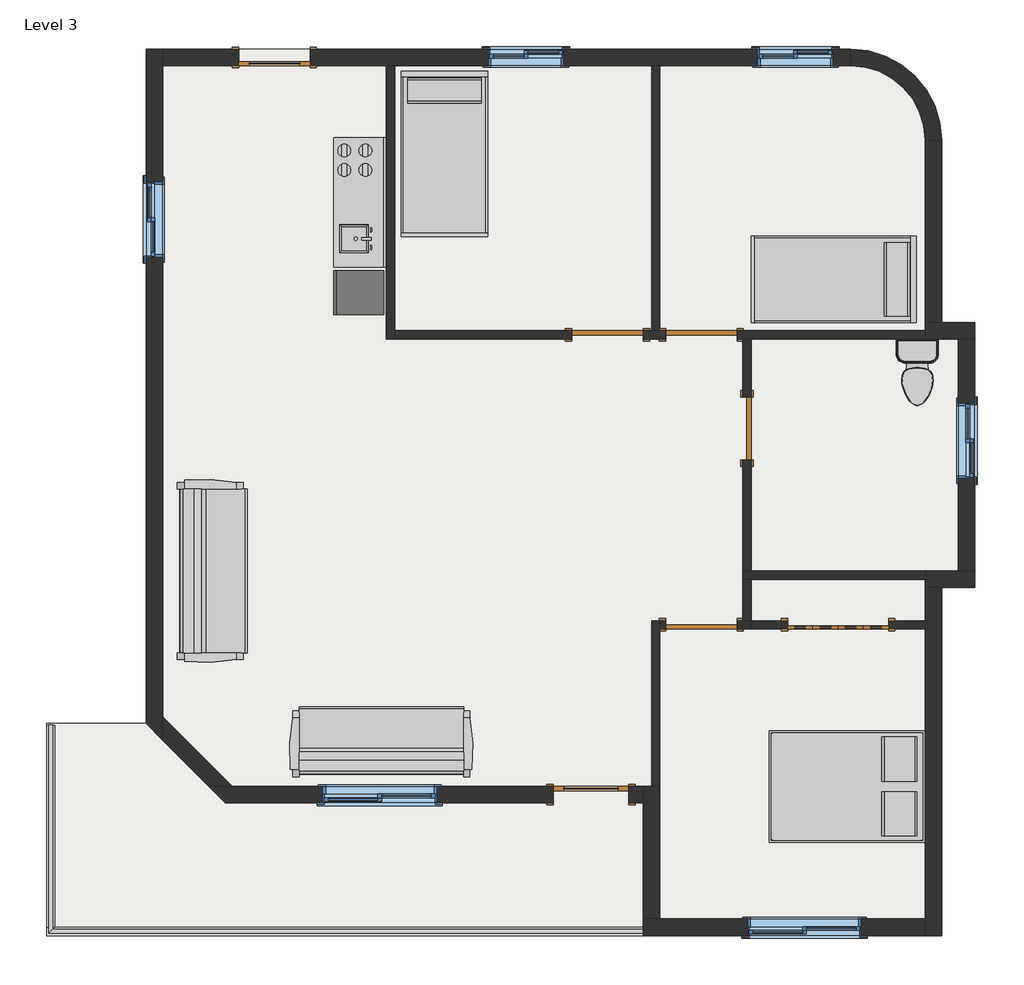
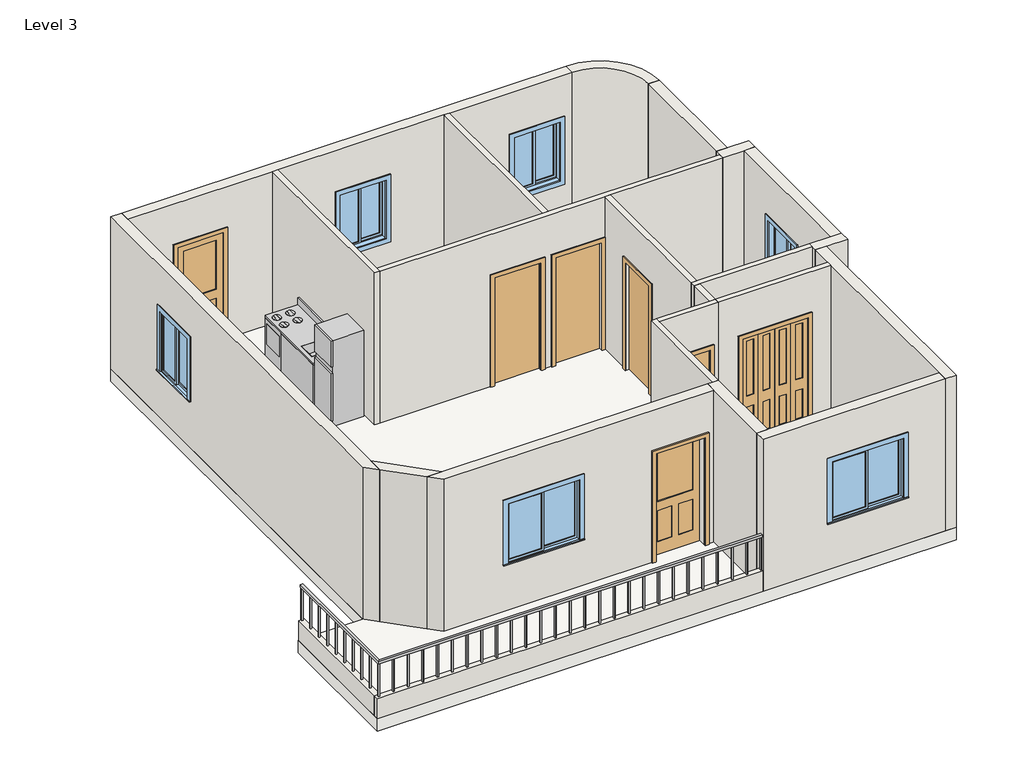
# One storey: 23 walls, 7 doors, 6 windows, 5 furniture elements, 2 flow terminals, 1 railing, 1 slab.
"""IFC4 building model written with IfcOpenShell, lengths in millimetres."""

from ifc_helpers import new_model, si_unit, point, frame, frame_2d, origin, place, context, project, spatial, polyline, circle_curve, trimmed, segment, composite_curve, outline, extrude, faceted_brep, transform, mapped, element, save
from components import m_bifold_4_panel_1220_x_2134mm_c9b228a8, m_single_decorative_1_0864_x_2134mm_a8b8a0d3, m_single_decorative_1_0914_x_2134mm_d79a5f66, m_single_flush_0762_x_2134mm_2f099e9c, m_single_flush_0864_x_2134mm_3838e64d, m_single_flush_0864_x_2134mm_bdbe8edc, m_kitchen_unit_635_mmx2135_mm_826748c3, m_toilet_domestic_3d_m_toilet_domestic_3d_5cb52bd4, m_toilet_domestic_3d_m_toilet_domestic_3d_183bbd19, m_bed_box_1346_x_1880mm_double_9a731973, m_bed_shaker_1040_x_1981mm_twin_31f1bf66, m_sofa_pensi_2134mm_eda8efce, m_sliding_with_trim_0915_x_1220mm_c5f69082, m_sliding_with_trim_1372_x_1220mm_1cbd48f5

model = new_model("IFC4")

# Units and contexts
model_context = context("Model", 3, world=origin())
ifc_project = project(units=[si_unit("LENGTHUNIT", "METRE", prefix="MILLI")], contexts=[model_context])

# Site, building, storey
site = spatial("IfcSite", under=ifc_project)
building = spatial("IfcBuilding", under=site)
storey = spatial("IfcBuildingStorey", under=building, Name="Level 3", Elevation=6000.0)

# Doors
placement = place(None, origin())
m_bifold_4_panel_1220_x_2134mm_shape = m_bifold_4_panel_1220_x_2134mm_c9b228a8(model_context)
element("IfcDoor", 1, ObjectType="M_Bifold-4 Panel : 1220 x 2134mm", at=placement, inside=storey, context=model_context, shape_type="MappedRepresentation", body=[
    mapped(m_bifold_4_panel_1220_x_2134mm_shape, transform((-9012.9123896, -2705.4324328, 6000.0), x_axis=(-1.0, 0.0, 0.0), y_axis=(0.0, -1.0, 0.0), z_axis=(0.0, 0.0, 1.0))),
])
m_single_decorative_1_0864_x_2134mm_shape = m_single_decorative_1_0864_x_2134mm_a8b8a0d3(model_context)
element("IfcDoor", 2, ObjectType="M_Single-Decorative 1 : 0864 x 2134mm", at=placement, inside=storey, context=model_context, shape_type="MappedRepresentation", body=[
    mapped(m_single_decorative_1_0864_x_2134mm_shape, transform((-15812.9123896, 4144.5675672, 6000.0), x_axis=(-1.0, 0.0, 0.0), y_axis=(0.0, -1.0, 0.0), z_axis=(0.0, 0.0, 1.0))),
])
m_single_decorative_1_0914_x_2134mm_shape = m_single_decorative_1_0914_x_2134mm_d79a5f66(model_context)
element("IfcDoor", 3, ObjectType="M_Single-Decorative 1 : 0914 x 2134mm", at=placement, inside=storey, context=model_context, shape_type="MappedRepresentation", body=[
    mapped(m_single_decorative_1_0914_x_2134mm_shape, transform((-11994.9123896, -4755.4324328, 6000.0), x_axis=(1.0, 0.0, 0.0), y_axis=(0.0, 1.0, 0.0), z_axis=(0.0, 0.0, 1.0))),
])
m_single_flush_0762_x_2134mm_shape = m_single_flush_0762_x_2134mm_2f099e9c(model_context)
element("IfcDoor", 4, ObjectType="M_Single-Flush : 0762 x 2134mm", at=placement, inside=storey, context=model_context, shape_type="MappedRepresentation", body=[
    mapped(m_single_flush_0762_x_2134mm_shape, transform((-10112.9123896, -336.4324328, 6000.0), x_axis=(0.0, 1.0, 0.0), y_axis=(-1.0, 0.0, 0.0), z_axis=(0.0, 0.0, 1.0))),
])
m_single_flush_0864_x_2134mm_shape = m_single_flush_0864_x_2134mm_3838e64d(model_context)
element("IfcDoor", 5, ObjectType="M_Single-Flush : 0864 x 2134mm", at=placement, inside=storey, context=model_context, shape_type="MappedRepresentation", body=[
    mapped(m_single_flush_0864_x_2134mm_shape, transform((-10662.9123896, -2705.4324328, 6000.0), x_axis=(-1.0, 0.0, 0.0), y_axis=(0.0, -1.0, 0.0), z_axis=(0.0, 0.0, 1.0))),
])
element("IfcDoor", 6, ObjectType="M_Single-Flush : 0864 x 2134mm", at=placement, inside=storey, context=model_context, shape_type="MappedRepresentation", body=[
    mapped(m_single_flush_0864_x_2134mm_shape, transform((-11794.9123896, 794.5675672, 6000.0), x_axis=(1.0, 0.0, 0.0), y_axis=(0.0, 1.0, 0.0), z_axis=(0.0, 0.0, 1.0))),
])
m_single_flush_0864_x_2134mm_2_shape = m_single_flush_0864_x_2134mm_bdbe8edc(model_context)
element("IfcDoor", 7, ObjectType="M_Single-Flush : 0864 x 2134mm", at=placement, inside=storey, context=model_context, shape_type="MappedRepresentation", body=[
    mapped(m_single_flush_0864_x_2134mm_2_shape, transform((-10662.9123896, 794.5675672, 6000.0), x_axis=(-1.0, 0.0, 0.0), y_axis=(0.0, -1.0, 0.0), z_axis=(0.0, 0.0, 1.0))),
])

# Flow terminals
m_kitchen_unit_635_mmx2135_mm_shape = m_kitchen_unit_635_mmx2135_mm_826748c3(model_context)
element("IfcFlowTerminal", 8, ObjectType="M_Kitchen Unit : 635 mmx2135 mm", at=placement, inside=storey, context=model_context, shape_type="MappedRepresentation", body=[
    mapped(m_kitchen_unit_635_mmx2135_mm_shape, transform((-14462.9123896, 2394.5675672, 6000.0), x_axis=(-1.0, 0.0, 0.0), y_axis=(0.0, -1.0, 0.0), z_axis=(0.0, 0.0, 1.0))),
])
m_toilet_domestic_3d_m_toilet_domestic_3d_shape = m_toilet_domestic_3d_m_toilet_domestic_3d_5cb52bd4(model_context)
m_toilet_domestic_3d_m_toilet_domestic_3d_2_shape = m_toilet_domestic_3d_m_toilet_domestic_3d_183bbd19(model_context)
element("IfcFlowTerminal", 9, ObjectType="M_Toilet-Domestic-3D : M_Toilet-Domestic-3D", at=placement, inside=storey, context=model_context, shape_type="MappedRepresentation", body=[
    mapped(m_toilet_domestic_3d_m_toilet_domestic_3d_shape, transform((-8056.308417, 249.8715399, 6000.0), x_axis=(1.0, 0.0, 0.0), y_axis=(0.0, 1.0, 0.0), z_axis=(0.0, 0.0, 1.0))),
    mapped(m_toilet_domestic_3d_m_toilet_domestic_3d_2_shape, transform((-8056.308417, 249.8715399, 6000.0), x_axis=(1.0, 0.0, 0.0), y_axis=(0.0, 1.0, 0.0), z_axis=(0.0, 0.0, 1.0))),
])

# Furniture
m_bed_box_1346_x_1880mm_double_shape = m_bed_box_1346_x_1880mm_double_9a731973(model_context)
element("IfcFurniture", 10, ObjectType="M_Bed-Box : 1346 x 1880mm - Double", at=placement, inside=storey, context=model_context, shape_type="MappedRepresentation", body=[
    mapped(m_bed_box_1346_x_1880mm_double_shape, transform((-8668.4828814, -4316.2799738, 6000.0), x_axis=(0.0, -1.0, 0.0), y_axis=(1.0, 0.0, 0.0), z_axis=(0.0, 0.0, 1.0))),
])
m_bed_shaker_1040_x_1981mm_twin_shape = m_bed_shaker_1040_x_1981mm_twin_31f1bf66(model_context)
element("IfcFurniture", 11, ObjectType="M_Bed-Shaker : 1040 x 1981mm - Twin", at=placement, inside=storey, context=model_context, shape_type="MappedRepresentation", body=[
    mapped(m_bed_shaker_1040_x_1981mm_twin_shape, transform((-8081.7123896, 1446.2175672, 6000.0), x_axis=(0.0, -1.0, 0.0), y_axis=(1.0, 0.0, 0.0), z_axis=(0.0, 0.0, 1.0))),
])
element("IfcFurniture", 12, ObjectType="M_Bed-Shaker : 1040 x 1981mm - Twin", at=placement, inside=storey, context=model_context, shape_type="MappedRepresentation", body=[
    mapped(m_bed_shaker_1040_x_1981mm_twin_shape, transform((-13743.1623896, 3964.5675672, 6000.0), x_axis=(1.0, 0.0, 0.0), y_axis=(0.0, 1.0, 0.0), z_axis=(0.0, 0.0, 1.0))),
])
m_sofa_pensi_2134mm_shape = m_sofa_pensi_2134mm_eda8efce(model_context)
element("IfcFurniture", 13, ObjectType="M_Sofa-Pensi : 2134mm", at=placement, inside=storey, context=model_context, shape_type="MappedRepresentation", body=[
    mapped(m_sofa_pensi_2134mm_shape, transform((-14244.3061396, -3838.3225967, 6000.0), x_axis=(-1.0, 0.0, 0.0), y_axis=(0.0, -1.0, 0.0), z_axis=(0.0, 0.0, 1.0))),
])
element("IfcFurniture", 14, ObjectType="M_Sofa-Pensi : 2134mm", at=placement, inside=storey, context=model_context, shape_type="MappedRepresentation", body=[
    mapped(m_sofa_pensi_2134mm_shape, transform((-16285.8025536, -2334.0386828, 6000.0), x_axis=(0.0, 1.0, 0.0), y_axis=(-1.0, 0.0, 0.0), z_axis=(0.0, 0.0, 1.0))),
])

# Railing
element("IfcRailing", 15, ObjectType="700mm", at=placement, inside=storey, context=model_context, shape_type="SolidModel", body=[
    faceted_brep([(-11362.9123896, -6430.4324328, 7100.0), (-11362.9123896, -6430.4324328, 7050.0), (-11362.9123896, -6380.4324328, 7050.0), (-11362.9123896, -6380.4324328, 7100.0), (-18537.9123896, -6430.4324328, 7100.0), (-18537.9123896, -6430.4324328, 7050.0), (-18487.9123896, -6380.4324328, 7050.0), (-18487.9123896, -6380.4324328, 7100.0), (-18537.9123896, -3915.4324328, 7100.0), (-18487.9123896, -3915.4324328, 7100.0), (-18487.9123896, -3915.4324328, 7050.0), (-18537.9123896, -3915.4324328, 7050.0)], [[[0, 1, 2, 3]], [[1, 0, 4, 5]], [[2, 1, 5, 6]], [[3, 2, 6, 7]], [[0, 3, 7, 4]], [[8, 9, 10, 11]], [[5, 4, 8, 11]], [[6, 5, 11, 10]], [[7, 6, 10, 9]], [[4, 7, 9, 8]]]),
    extrude(outline(polyline([(-18500.4123896, -3942.9324328), (-18525.4123896, -3942.9324328), (-18525.4123896, -3917.9324328), (-18500.4123896, -3917.9324328), (-18500.4123896, -3942.9324328)])), frame((0.0, 0.0, 6400.0), z_axis=(0.0, 0.0, 1.0), x_axis=(1.0, 0.0, 0.0)), (0.0, 0.0, 1.0), 650.0),
    extrude(outline(polyline([(-18500.4123896, -4217.9324328), (-18525.4123896, -4217.9324328), (-18525.4123896, -4192.9324328), (-18500.4123896, -4192.9324328), (-18500.4123896, -4217.9324328)])), frame((0.0, 0.0, 6400.0), z_axis=(0.0, 0.0, 1.0), x_axis=(1.0, 0.0, 0.0)), (0.0, 0.0, 1.0), 650.0),
    extrude(outline(polyline([(-18500.4123896, -4492.9324328), (-18525.4123896, -4492.9324328), (-18525.4123896, -4467.9324328), (-18500.4123896, -4467.9324328), (-18500.4123896, -4492.9324328)])), frame((0.0, 0.0, 6400.0), z_axis=(0.0, 0.0, 1.0), x_axis=(1.0, 0.0, 0.0)), (0.0, 0.0, 1.0), 650.0),
    extrude(outline(polyline([(-18500.4123896, -4767.9324328), (-18525.4123896, -4767.9324328), (-18525.4123896, -4742.9324328), (-18500.4123896, -4742.9324328), (-18500.4123896, -4767.9324328)])), frame((0.0, 0.0, 6400.0), z_axis=(0.0, 0.0, 1.0), x_axis=(1.0, 0.0, 0.0)), (0.0, 0.0, 1.0), 650.0),
    extrude(outline(polyline([(-18500.4123896, -5042.9324328), (-18525.4123896, -5042.9324328), (-18525.4123896, -5017.9324328), (-18500.4123896, -5017.9324328), (-18500.4123896, -5042.9324328)])), frame((0.0, 0.0, 6400.0), z_axis=(0.0, 0.0, 1.0), x_axis=(1.0, 0.0, 0.0)), (0.0, 0.0, 1.0), 650.0),
    extrude(outline(polyline([(-18500.4123896, -5317.9324328), (-18525.4123896, -5317.9324328), (-18525.4123896, -5292.9324328), (-18500.4123896, -5292.9324328), (-18500.4123896, -5317.9324328)])), frame((0.0, 0.0, 6400.0), z_axis=(0.0, 0.0, 1.0), x_axis=(1.0, 0.0, 0.0)), (0.0, 0.0, 1.0), 650.0),
    extrude(outline(polyline([(-18500.4123896, -5592.9324328), (-18525.4123896, -5592.9324328), (-18525.4123896, -5567.9324328), (-18500.4123896, -5567.9324328), (-18500.4123896, -5592.9324328)])), frame((0.0, 0.0, 6400.0), z_axis=(0.0, 0.0, 1.0), x_axis=(1.0, 0.0, 0.0)), (0.0, 0.0, 1.0), 650.0),
    extrude(outline(polyline([(-18500.4123896, -5867.9324328), (-18525.4123896, -5867.9324328), (-18525.4123896, -5842.9324328), (-18500.4123896, -5842.9324328), (-18500.4123896, -5867.9324328)])), frame((0.0, 0.0, 6400.0), z_axis=(0.0, 0.0, 1.0), x_axis=(1.0, 0.0, 0.0)), (0.0, 0.0, 1.0), 650.0),
    extrude(outline(polyline([(-18500.4123896, -6142.9324328), (-18525.4123896, -6142.9324328), (-18525.4123896, -6117.9324328), (-18500.4123896, -6117.9324328), (-18500.4123896, -6142.9324328)])), frame((0.0, 0.0, 6400.0), z_axis=(0.0, 0.0, 1.0), x_axis=(1.0, 0.0, 0.0)), (0.0, 0.0, 1.0), 650.0),
    extrude(outline(polyline([(-18225.4123896, -6392.9324328), (-18225.4123896, -6417.9324328), (-18250.4123896, -6417.9324328), (-18250.4123896, -6392.9324328), (-18225.4123896, -6392.9324328)])), frame((0.0, 0.0, 6400.0), z_axis=(0.0, 0.0, 1.0), x_axis=(1.0, 0.0, 0.0)), (0.0, 0.0, 1.0), 650.0),
    extrude(outline(polyline([(-17950.4123896, -6392.9324328), (-17950.4123896, -6417.9324328), (-17975.4123896, -6417.9324328), (-17975.4123896, -6392.9324328), (-17950.4123896, -6392.9324328)])), frame((0.0, 0.0, 6400.0), z_axis=(0.0, 0.0, 1.0), x_axis=(1.0, 0.0, 0.0)), (0.0, 0.0, 1.0), 650.0),
    extrude(outline(polyline([(-17675.4123896, -6392.9324328), (-17675.4123896, -6417.9324328), (-17700.4123896, -6417.9324328), (-17700.4123896, -6392.9324328), (-17675.4123896, -6392.9324328)])), frame((0.0, 0.0, 6400.0), z_axis=(0.0, 0.0, 1.0), x_axis=(1.0, 0.0, 0.0)), (0.0, 0.0, 1.0), 650.0),
    extrude(outline(polyline([(-17400.4123896, -6392.9324328), (-17400.4123896, -6417.9324328), (-17425.4123896, -6417.9324328), (-17425.4123896, -6392.9324328), (-17400.4123896, -6392.9324328)])), frame((0.0, 0.0, 6400.0), z_axis=(0.0, 0.0, 1.0), x_axis=(1.0, 0.0, 0.0)), (0.0, 0.0, 1.0), 650.0),
    extrude(outline(polyline([(-17125.4123896, -6392.9324328), (-17125.4123896, -6417.9324328), (-17150.4123896, -6417.9324328), (-17150.4123896, -6392.9324328), (-17125.4123896, -6392.9324328)])), frame((0.0, 0.0, 6400.0), z_axis=(0.0, 0.0, 1.0), x_axis=(1.0, 0.0, 0.0)), (0.0, 0.0, 1.0), 650.0),
    extrude(outline(polyline([(-16850.4123896, -6392.9324328), (-16850.4123896, -6417.9324328), (-16875.4123896, -6417.9324328), (-16875.4123896, -6392.9324328), (-16850.4123896, -6392.9324328)])), frame((0.0, 0.0, 6400.0), z_axis=(0.0, 0.0, 1.0), x_axis=(1.0, 0.0, 0.0)), (0.0, 0.0, 1.0), 650.0),
    extrude(outline(polyline([(-16575.4123896, -6392.9324328), (-16575.4123896, -6417.9324328), (-16600.4123896, -6417.9324328), (-16600.4123896, -6392.9324328), (-16575.4123896, -6392.9324328)])), frame((0.0, 0.0, 6400.0), z_axis=(0.0, 0.0, 1.0), x_axis=(1.0, 0.0, 0.0)), (0.0, 0.0, 1.0), 650.0),
    extrude(outline(polyline([(-16300.4123896, -6392.9324328), (-16300.4123896, -6417.9324328), (-16325.4123896, -6417.9324328), (-16325.4123896, -6392.9324328), (-16300.4123896, -6392.9324328)])), frame((0.0, 0.0, 6400.0), z_axis=(0.0, 0.0, 1.0), x_axis=(1.0, 0.0, 0.0)), (0.0, 0.0, 1.0), 650.0),
    extrude(outline(polyline([(-16025.4123896, -6392.9324328), (-16025.4123896, -6417.9324328), (-16050.4123896, -6417.9324328), (-16050.4123896, -6392.9324328), (-16025.4123896, -6392.9324328)])), frame((0.0, 0.0, 6400.0), z_axis=(0.0, 0.0, 1.0), x_axis=(1.0, 0.0, 0.0)), (0.0, 0.0, 1.0), 650.0),
    extrude(outline(polyline([(-15750.4123896, -6392.9324328), (-15750.4123896, -6417.9324328), (-15775.4123896, -6417.9324328), (-15775.4123896, -6392.9324328), (-15750.4123896, -6392.9324328)])), frame((0.0, 0.0, 6400.0), z_axis=(0.0, 0.0, 1.0), x_axis=(1.0, 0.0, 0.0)), (0.0, 0.0, 1.0), 650.0),
    extrude(outline(polyline([(-15475.4123896, -6392.9324328), (-15475.4123896, -6417.9324328), (-15500.4123896, -6417.9324328), (-15500.4123896, -6392.9324328), (-15475.4123896, -6392.9324328)])), frame((0.0, 0.0, 6400.0), z_axis=(0.0, 0.0, 1.0), x_axis=(1.0, 0.0, 0.0)), (0.0, 0.0, 1.0), 650.0),
    extrude(outline(polyline([(-15200.4123896, -6392.9324328), (-15200.4123896, -6417.9324328), (-15225.4123896, -6417.9324328), (-15225.4123896, -6392.9324328), (-15200.4123896, -6392.9324328)])), frame((0.0, 0.0, 6400.0), z_axis=(0.0, 0.0, 1.0), x_axis=(1.0, 0.0, 0.0)), (0.0, 0.0, 1.0), 650.0),
    extrude(outline(polyline([(-14925.4123896, -6392.9324328), (-14925.4123896, -6417.9324328), (-14950.4123896, -6417.9324328), (-14950.4123896, -6392.9324328), (-14925.4123896, -6392.9324328)])), frame((0.0, 0.0, 6400.0), z_axis=(0.0, 0.0, 1.0), x_axis=(1.0, 0.0, 0.0)), (0.0, 0.0, 1.0), 650.0),
    extrude(outline(polyline([(-14650.4123896, -6392.9324328), (-14650.4123896, -6417.9324328), (-14675.4123896, -6417.9324328), (-14675.4123896, -6392.9324328), (-14650.4123896, -6392.9324328)])), frame((0.0, 0.0, 6400.0), z_axis=(0.0, 0.0, 1.0), x_axis=(1.0, 0.0, 0.0)), (0.0, 0.0, 1.0), 650.0),
    extrude(outline(polyline([(-14375.4123896, -6392.9324328), (-14375.4123896, -6417.9324328), (-14400.4123896, -6417.9324328), (-14400.4123896, -6392.9324328), (-14375.4123896, -6392.9324328)])), frame((0.0, 0.0, 6400.0), z_axis=(0.0, 0.0, 1.0), x_axis=(1.0, 0.0, 0.0)), (0.0, 0.0, 1.0), 650.0),
    extrude(outline(polyline([(-14100.4123896, -6392.9324328), (-14100.4123896, -6417.9324328), (-14125.4123896, -6417.9324328), (-14125.4123896, -6392.9324328), (-14100.4123896, -6392.9324328)])), frame((0.0, 0.0, 6400.0), z_axis=(0.0, 0.0, 1.0), x_axis=(1.0, 0.0, 0.0)), (0.0, 0.0, 1.0), 650.0),
    extrude(outline(polyline([(-13825.4123896, -6392.9324328), (-13825.4123896, -6417.9324328), (-13850.4123896, -6417.9324328), (-13850.4123896, -6392.9324328), (-13825.4123896, -6392.9324328)])), frame((0.0, 0.0, 6400.0), z_axis=(0.0, 0.0, 1.0), x_axis=(1.0, 0.0, 0.0)), (0.0, 0.0, 1.0), 650.0),
    extrude(outline(polyline([(-13550.4123896, -6392.9324328), (-13550.4123896, -6417.9324328), (-13575.4123896, -6417.9324328), (-13575.4123896, -6392.9324328), (-13550.4123896, -6392.9324328)])), frame((0.0, 0.0, 6400.0), z_axis=(0.0, 0.0, 1.0), x_axis=(1.0, 0.0, 0.0)), (0.0, 0.0, 1.0), 650.0),
    extrude(outline(polyline([(-13275.4123896, -6392.9324328), (-13275.4123896, -6417.9324328), (-13300.4123896, -6417.9324328), (-13300.4123896, -6392.9324328), (-13275.4123896, -6392.9324328)])), frame((0.0, 0.0, 6400.0), z_axis=(0.0, 0.0, 1.0), x_axis=(1.0, 0.0, 0.0)), (0.0, 0.0, 1.0), 650.0),
    extrude(outline(polyline([(-13000.4123896, -6392.9324328), (-13000.4123896, -6417.9324328), (-13025.4123896, -6417.9324328), (-13025.4123896, -6392.9324328), (-13000.4123896, -6392.9324328)])), frame((0.0, 0.0, 6400.0), z_axis=(0.0, 0.0, 1.0), x_axis=(1.0, 0.0, 0.0)), (0.0, 0.0, 1.0), 650.0),
    extrude(outline(polyline([(-12725.4123896, -6392.9324328), (-12725.4123896, -6417.9324328), (-12750.4123896, -6417.9324328), (-12750.4123896, -6392.9324328), (-12725.4123896, -6392.9324328)])), frame((0.0, 0.0, 6400.0), z_axis=(0.0, 0.0, 1.0), x_axis=(1.0, 0.0, 0.0)), (0.0, 0.0, 1.0), 650.0),
    extrude(outline(polyline([(-12450.4123896, -6392.9324328), (-12450.4123896, -6417.9324328), (-12475.4123896, -6417.9324328), (-12475.4123896, -6392.9324328), (-12450.4123896, -6392.9324328)])), frame((0.0, 0.0, 6400.0), z_axis=(0.0, 0.0, 1.0), x_axis=(1.0, 0.0, 0.0)), (0.0, 0.0, 1.0), 650.0),
    extrude(outline(polyline([(-12175.4123896, -6392.9324328), (-12175.4123896, -6417.9324328), (-12200.4123896, -6417.9324328), (-12200.4123896, -6392.9324328), (-12175.4123896, -6392.9324328)])), frame((0.0, 0.0, 6400.0), z_axis=(0.0, 0.0, 1.0), x_axis=(1.0, 0.0, 0.0)), (0.0, 0.0, 1.0), 650.0),
    extrude(outline(polyline([(-11900.4123896, -6392.9324328), (-11900.4123896, -6417.9324328), (-11925.4123896, -6417.9324328), (-11925.4123896, -6392.9324328), (-11900.4123896, -6392.9324328)])), frame((0.0, 0.0, 6400.0), z_axis=(0.0, 0.0, 1.0), x_axis=(1.0, 0.0, 0.0)), (0.0, 0.0, 1.0), 650.0),
    extrude(outline(polyline([(-11625.4123896, -6392.9324328), (-11625.4123896, -6417.9324328), (-11650.4123896, -6417.9324328), (-11650.4123896, -6392.9324328), (-11625.4123896, -6392.9324328)])), frame((0.0, 0.0, 6400.0), z_axis=(0.0, 0.0, 1.0), x_axis=(1.0, 0.0, 0.0)), (0.0, 0.0, 1.0), 650.0),
    extrude(outline(polyline([(-18500.4123896, -6392.9324328), (-18500.4123896, -6417.9324328), (-18525.4123896, -6417.9324328), (-18525.4123896, -6392.9324328), (-18500.4123896, -6392.9324328)])), frame((0.0, 0.0, 6400.0), z_axis=(0.0, 0.0, 1.0), x_axis=(1.0, 0.0, 0.0)), (0.0, 0.0, 1.0), 650.0),
    extrude(outline(polyline([(-18500.4123896, -3940.4324328), (-18525.4123896, -3940.4324328), (-18525.4123896, -3915.4324328), (-18500.4123896, -3915.4324328), (-18500.4123896, -3940.4324328)])), frame((0.0, 0.0, 6400.0), z_axis=(0.0, 0.0, 1.0), x_axis=(1.0, 0.0, 0.0)), (0.0, 0.0, 1.0), 650.0),
    extrude(outline(polyline([(-11362.9123896, -6392.9324328), (-11362.9123896, -6417.9324328), (-11387.9123896, -6417.9324328), (-11387.9123896, -6392.9324328), (-11362.9123896, -6392.9324328)])), frame((0.0, 0.0, 6400.0), z_axis=(0.0, 0.0, 1.0), x_axis=(1.0, 0.0, 0.0)), (0.0, 0.0, 1.0), 650.0),
])

# Slab
element("IfcSlab", 16, ObjectType="Standard Timber-Wood Finish", at=placement, inside=storey, context=model_context, shape_type="SweptSolid", body=[
    extrude(outline(composite_curve([segment(polyline([(-7762.9123896, 944.5675672), (-7362.9123896, 944.5675672), (-7362.9123896, -2255.4324328), (-7762.9123896, -2255.4324328), (-7762.9123896, -6455.4324328), (-18562.9123896, -6455.4324328), (-18562.9123896, -3896.853789), (-17362.9123896, -3896.853789), (-17362.9123896, 4244.5675672), (-8862.9123896, 4244.5675672)]), True, "CONTINUOUS"), segment(trimmed(circle_curve(frame_2d((-8862.9123896, 3144.5675672)), 1100.0), [point((-8862.9123896, 4244.5675672))], [point((-7762.9123896, 3144.5675672))], False, "CARTESIAN"), True, "CONTINUOUS"), segment(polyline([(-7762.9123896, 3144.5675672), (-7762.9123896, 944.5675672)]), True, "CONTINUOUS")], self_intersect=False)), frame((0.0, 0.0, 5759.0), z_axis=(0.0, 0.0, 1.0), x_axis=(1.0, 0.0, 0.0)), (0.0, 0.0, 1.0), 241.0),
])

# Walls
element("IfcWall", 17, ObjectType="Generic - 100mm", at=placement, inside=storey, context=model_context, shape_type="Brep", body=[
    faceted_brep([(-7962.9123896, -2055.4324328, 6000.0), (-10062.9123896, -2055.4324328, 6000.0), (-10162.9123896, -2055.4324328, 6000.0), (-10162.9123896, -2055.4324328, 9000.0), (-10062.9123896, -2055.4324328, 9000.0), (-7962.9123896, -2055.4324328, 9000.0), (-7962.9123896, -2155.4324328, 6000.0), (-7962.9123896, -2155.4324328, 9000.0), (-10062.9123896, -2155.4324328, 9000.0), (-10162.9123896, -2155.4324328, 9000.0), (-10162.9123896, -2155.4324328, 6000.0), (-10062.9123896, -2155.4324328, 6000.0)], [[[0, 1, 2, 3, 4, 5]], [[6, 7, 8, 9, 10, 11]], [[2, 1, 0, 6, 11, 10]], [[5, 4, 3, 9, 8, 7]], [[0, 5, 7, 6]], [[3, 2, 10, 9]]]),
])
element("IfcWall", 18, ObjectType="Generic - 100mm", at=placement, inside=storey, context=model_context, shape_type="Brep", body=[
    faceted_brep([(-11262.9123896, -2655.4324328, 6000.0), (-11262.9123896, -4655.4324328, 6000.0), (-11262.9123896, -4655.4324328, 9000.0), (-11262.9123896, -2655.4324328, 9000.0), (-11162.9123896, -2655.4324328, 6000.0), (-11162.9123896, -2655.4324328, 9000.0), (-11162.9123896, -2755.4324328, 9000.0), (-11162.9123896, -4655.4324328, 9000.0), (-11162.9123896, -4655.4324328, 6000.0), (-11162.9123896, -2755.4324328, 6000.0)], [[[0, 1, 2, 3]], [[4, 5, 6, 7, 8, 9]], [[1, 0, 4, 9, 8]], [[3, 2, 7, 6, 5]], [[2, 1, 8, 7]], [[0, 3, 5, 4]]]),
])
element("IfcWall", 19, ObjectType="Generic - 100mm", at=placement, inside=storey, context=model_context, shape_type="Brep", body=[
    faceted_brep([(-11094.9123896, -2655.4324328, 8134.0), (-11094.9123896, -2655.4324328, 6000.0), (-11162.9123896, -2655.4324328, 6000.0), (-11162.9123896, -2655.4324328, 9000.0), (-10162.9123896, -2655.4324328, 9000.0), (-10062.9123896, -2655.4324328, 9000.0), (-10062.9123896, -2655.4324328, 6000.0), (-10162.9123896, -2655.4324328, 6000.0), (-10230.9123896, -2655.4324328, 6000.0), (-10230.9123896, -2655.4324328, 8134.0), (-11162.9123896, -2755.4324328, 6000.0), (-11094.9123896, -2755.4324328, 6000.0), (-11094.9123896, -2755.4324328, 8134.0), (-10230.9123896, -2755.4324328, 8134.0), (-10230.9123896, -2755.4324328, 6000.0), (-10062.9123896, -2755.4324328, 6000.0), (-10062.9123896, -2755.4324328, 9000.0), (-11162.9123896, -2755.4324328, 9000.0)], [[[0, 1, 2, 3, 4, 5, 6, 7, 8, 9]], [[10, 11, 12, 13, 14, 15, 16, 17]], [[2, 1, 11, 10]], [[8, 7, 6, 15, 14]], [[5, 4, 3, 17, 16]], [[3, 2, 10, 17]], [[6, 5, 16, 15]], [[12, 11, 1, 0]], [[13, 12, 0, 9]], [[14, 13, 9, 8]]]),
])
element("IfcWall", 20, ObjectType="Generic - 100mm", at=placement, inside=storey, context=model_context, shape_type="SweptSolid", body=[
    extrude(outline(polyline([(-10162.9123896, -2655.4324328), (-10162.9123896, -2155.4324328), (-10062.9123896, -2155.4324328), (-10062.9123896, -2655.4324328), (-10162.9123896, -2655.4324328)])), frame((0.0, 0.0, 6000.0), z_axis=(0.0, 0.0, 1.0), x_axis=(1.0, 0.0, 0.0)), (0.0, 0.0, 1.0), 3000.0),
])
element("IfcWall", 21, ObjectType="Generic - 100mm", at=placement, inside=storey, context=model_context, shape_type="SweptSolid", body=[
    extrude(outline(polyline([(9000.0, -7962.9123896), (9000.0, -10062.9123896), (6000.0, -10062.9123896), (6000.0, -9622.9123896), (8134.0, -9622.9123896), (8134.0, -8402.9123896), (6000.0, -8402.9123896), (6000.0, -7962.9123896), (9000.0, -7962.9123896)])), frame((0.0, -2755.4324328, 0.0), z_axis=(0.0, 1.0, 0.0), x_axis=(0.0, 0.0, 1.0)), (0.0, 0.0, 1.0), 100.0),
])
element("IfcWall", 22, ObjectType="Generic - 100mm", at=placement, inside=storey, context=model_context, shape_type="Brep", body=[
    faceted_brep([(-11094.9123896, 844.5675672, 6000.0), (-11162.9123896, 844.5675672, 6000.0), (-11262.9123896, 844.5675672, 6000.0), (-11362.9123896, 844.5675672, 6000.0), (-11362.9123896, 844.5675672, 8134.0), (-12226.9123896, 844.5675672, 8134.0), (-12226.9123896, 844.5675672, 6000.0), (-14362.9123896, 844.5675672, 6000.0), (-14362.9123896, 844.5675672, 9000.0), (-11262.9123896, 844.5675672, 9000.0), (-11162.9123896, 844.5675672, 9000.0), (-7962.9123896, 844.5675672, 9000.0), (-7962.9123896, 844.5675672, 6000.0), (-10230.9123896, 844.5675672, 6000.0), (-10230.9123896, 844.5675672, 8134.0), (-11094.9123896, 844.5675672, 8134.0), (-11362.9123896, 744.5675672, 8134.0), (-11362.9123896, 744.5675672, 6000.0), (-11094.9123896, 744.5675672, 6000.0), (-11094.9123896, 744.5675672, 8134.0), (-10230.9123896, 744.5675672, 8134.0), (-10230.9123896, 744.5675672, 6000.0), (-10162.9123896, 744.5675672, 6000.0), (-10062.9123896, 744.5675672, 6000.0), (-7962.9123896, 744.5675672, 6000.0), (-7962.9123896, 744.5675672, 9000.0), (-10062.9123896, 744.5675672, 9000.0), (-10162.9123896, 744.5675672, 9000.0), (-14362.9123896, 744.5675672, 9000.0), (-14362.9123896, 744.5675672, 6000.0), (-12226.9123896, 744.5675672, 6000.0), (-12226.9123896, 744.5675672, 8134.0)], [[[0, 1, 2, 3, 4, 5, 6, 7, 8, 9, 10, 11, 12, 13, 14, 15]], [[16, 17, 18, 19, 20, 21, 22, 23, 24, 25, 26, 27, 28, 29, 30, 31]], [[13, 12, 24, 23, 22, 21]], [[30, 29, 7, 6]], [[18, 17, 3, 2, 1, 0]], [[11, 10, 9, 8, 28, 27, 26, 25]], [[12, 11, 25, 24]], [[8, 7, 29, 28]], [[19, 18, 0, 15]], [[20, 19, 15, 14]], [[21, 20, 14, 13]], [[4, 3, 17, 16]], [[5, 4, 16, 31]], [[6, 5, 31, 30]]]),
])
element("IfcWall", 23, ObjectType="Generic - 100mm", at=placement, inside=storey, context=model_context, shape_type="SweptSolid", body=[
    extrude(outline(polyline([(744.5675672, 6000.0), (44.5675672, 6000.0), (44.5675672, 8134.0), (-717.4324328, 8134.0), (-717.4324328, 6000.0), (-2055.4324328, 6000.0), (-2055.4324328, 9000.0), (744.5675672, 9000.0), (744.5675672, 6000.0)])), frame((-10162.9123896, 0.0, 0.0), z_axis=(1.0, 0.0, 0.0), x_axis=(0.0, 1.0, 0.0)), (0.0, 0.0, 1.0), 100.0),
])
element("IfcWall", 24, ObjectType="Generic - 100mm", at=placement, inside=storey, context=model_context, shape_type="Brep", body=[
    faceted_brep([(-14462.9123896, 4044.5675672, 6000.0), (-14462.9123896, 744.5675672, 6000.0), (-14462.9123896, 744.5675672, 9000.0), (-14462.9123896, 4044.5675672, 9000.0), (-14362.9123896, 4044.5675672, 6000.0), (-14362.9123896, 4044.5675672, 9000.0), (-14362.9123896, 844.5675672, 9000.0), (-14362.9123896, 744.5675672, 9000.0), (-14362.9123896, 744.5675672, 6000.0), (-14362.9123896, 844.5675672, 6000.0)], [[[0, 1, 2, 3]], [[4, 5, 6, 7, 8, 9]], [[1, 0, 4, 9, 8]], [[3, 2, 7, 6, 5]], [[0, 3, 5, 4]], [[2, 1, 8, 7]]]),
])
element("IfcWall", 25, ObjectType="Generic - 100mm", at=placement, inside=storey, context=model_context, shape_type="SweptSolid", body=[
    extrude(outline(polyline([(-11262.9123896, 844.5675672), (-11262.9123896, 4044.5675672), (-11162.9123896, 4044.5675672), (-11162.9123896, 844.5675672), (-11262.9123896, 844.5675672)])), frame((0.0, 0.0, 6000.0), z_axis=(0.0, 0.0, 1.0), x_axis=(1.0, 0.0, 0.0)), (0.0, 0.0, 1.0), 3000.0),
])
element("IfcWall", 26, ObjectType="Generic - 100mm", at=placement, inside=storey, context=model_context, shape_type="Brep", body=[
    faceted_brep([(-11362.9123896, -6355.4324328, 6000.0), (-18462.9123896, -6355.4324328, 6000.0), (-18562.9123896, -6355.4324328, 6000.0), (-18562.9123896, -6355.4324328, 6400.0), (-18462.9123896, -6355.4324328, 6400.0), (-11362.9123896, -6355.4324328, 6400.0), (-11362.9123896, -6455.4324328, 6000.0), (-11362.9123896, -6455.4324328, 6400.0), (-18562.9123896, -6455.4324328, 6400.0), (-18562.9123896, -6455.4324328, 6000.0)], [[[0, 1, 2, 3, 4, 5]], [[6, 7, 8, 9]], [[2, 1, 0, 6, 9]], [[5, 4, 3, 8, 7]], [[0, 5, 7, 6]], [[3, 2, 9, 8]]]),
])
element("IfcWall", 27, ObjectType="Generic - 100mm", at=placement, inside=storey, context=model_context, shape_type="SweptSolid", body=[
    extrude(outline(polyline([(-18462.9123896, -3915.4324328), (-18462.9123896, -6355.4324328), (-18562.9123896, -6355.4324328), (-18562.9123896, -3915.4324328), (-18462.9123896, -3915.4324328)])), frame((0.0, 0.0, 6000.0), z_axis=(0.0, 0.0, 1.0), x_axis=(1.0, 0.0, 0.0)), (0.0, 0.0, 1.0), 400.0),
])
element("IfcWall", 28, ObjectType="Generic - 200mm", at=placement, inside=storey, context=model_context, shape_type="Brep", body=[
    faceted_brep([(-17162.9123896, -4096.853789, 6000.0), (-17162.9123896, -3814.0110766, 6000.0), (-17162.9123896, 4044.5675672, 6000.0), (-17162.9123896, 4244.5675672, 6000.0), (-17162.9123896, 4244.5675672, 9000.0), (-17162.9123896, 4044.5675672, 9000.0), (-17162.9123896, -3814.0110766, 9000.0), (-17162.9123896, -4096.853789, 9000.0), (-17162.9123896, 2644.5675672, 8135.0), (-17162.9123896, 2644.5675672, 6915.0), (-17162.9123896, 1729.5675672, 6915.0), (-17162.9123896, 1729.5675672, 8135.0), (-17362.9123896, -3896.853789, 6000.0), (-17362.9123896, -3896.853789, 9000.0), (-17362.9123896, 4244.5675672, 9000.0), (-17362.9123896, 4244.5675672, 6000.0), (-17362.9123896, 2644.5675672, 8135.0), (-17362.9123896, 1729.5675672, 8135.0), (-17362.9123896, 1729.5675672, 6915.0), (-17362.9123896, 2644.5675672, 6915.0)], [[[0, 1, 2, 3, 4, 5, 6, 7], [8, 9, 10, 11]], [[12, 13, 14, 15], [16, 17, 18, 19]], [[3, 2, 1, 0, 12, 15]], [[7, 6, 5, 4, 14, 13]], [[4, 3, 15, 14]], [[9, 8, 16, 19]], [[10, 9, 19, 18]], [[11, 10, 18, 17]], [[8, 11, 17, 16]], [[0, 7, 13, 12]]]),
])
element("IfcWall", 29, ObjectType="Generic - 200mm", at=placement, inside=storey, context=model_context, shape_type="Brep", body=[
    faceted_brep([(-8862.9123896, 4044.5675672, 6000.0), (-8862.9123896, 4044.5675672, 9000.0), (-11162.9123896, 4044.5675672, 9000.0), (-11262.9123896, 4044.5675672, 9000.0), (-14362.9123896, 4044.5675672, 9000.0), (-14462.9123896, 4044.5675672, 9000.0), (-17162.9123896, 4044.5675672, 9000.0), (-17162.9123896, 4044.5675672, 6000.0), (-16244.9123896, 4044.5675672, 6000.0), (-16244.9123896, 4044.5675672, 8134.0), (-15380.9123896, 4044.5675672, 8134.0), (-15380.9123896, 4044.5675672, 6000.0), (-14462.9123896, 4044.5675672, 6000.0), (-14362.9123896, 4044.5675672, 6000.0), (-11262.9123896, 4044.5675672, 6000.0), (-11162.9123896, 4044.5675672, 6000.0), (-9070.4373896, 4044.5675672, 8135.0), (-9070.4373896, 4044.5675672, 6915.0), (-9985.4373896, 4044.5675672, 6915.0), (-9985.4373896, 4044.5675672, 8135.0), (-12320.4373896, 4044.5675672, 8135.0), (-12320.4373896, 4044.5675672, 6915.0), (-13235.4373896, 4044.5675672, 6915.0), (-13235.4373896, 4044.5675672, 8135.0), (-8862.9123896, 4244.5675672, 9000.0), (-8862.9123896, 4244.5675672, 6000.0), (-15380.9123896, 4244.5675672, 6000.0), (-15380.9123896, 4244.5675672, 8134.0), (-16244.9123896, 4244.5675672, 8134.0), (-16244.9123896, 4244.5675672, 6000.0), (-17162.9123896, 4244.5675672, 6000.0), (-17162.9123896, 4244.5675672, 9000.0), (-9070.4373896, 4244.5675672, 8135.0), (-9985.4373896, 4244.5675672, 8135.0), (-9985.4373896, 4244.5675672, 6915.0), (-9070.4373896, 4244.5675672, 6915.0), (-12320.4373896, 4244.5675672, 8135.0), (-13235.4373896, 4244.5675672, 8135.0), (-13235.4373896, 4244.5675672, 6915.0), (-12320.4373896, 4244.5675672, 6915.0)], [[[0, 1, 2, 3, 4, 5, 6, 7, 8, 9, 10, 11, 12, 13, 14, 15], [16, 17, 18, 19], [20, 21, 22, 23]], [[24, 25, 26, 27, 28, 29, 30, 31], [32, 33, 34, 35], [36, 37, 38, 39]], [[7, 30, 29, 8]], [[25, 0, 15, 14, 13, 12, 11, 26]], [[1, 0, 25, 24]], [[6, 5, 4, 3, 2, 1, 24, 31]], [[7, 6, 31, 30]], [[28, 9, 8, 29]], [[9, 28, 27, 10]], [[10, 27, 26, 11]], [[17, 16, 32, 35]], [[18, 17, 35, 34]], [[19, 18, 34, 33]], [[16, 19, 33, 32]], [[21, 20, 36, 39]], [[22, 21, 39, 38]], [[23, 22, 38, 37]], [[20, 23, 37, 36]]]),
])
element("IfcWall", 30, ObjectType="Generic - 200mm", at=placement, inside=storey, context=model_context, shape_type="SweptSolid", body=[
    extrude(outline(polyline([(-7962.9123896, 944.5675672), (-7962.9123896, 3144.5675672), (-7762.9123896, 3144.5675672), (-7762.9123896, 944.5675672), (-7962.9123896, 944.5675672)])), frame((0.0, 0.0, 6000.0), z_axis=(0.0, 0.0, 1.0), x_axis=(1.0, 0.0, 0.0)), (0.0, 0.0, 1.0), 3000.0),
])
element("IfcWall", 31, ObjectType="Generic - 200mm", at=placement, inside=storey, context=model_context, shape_type="Brep", body=[
    faceted_brep([(-7962.9123896, 744.5675672, 6000.0), (-7562.9123896, 744.5675672, 6000.0), (-7362.9123896, 744.5675672, 6000.0), (-7362.9123896, 744.5675672, 9000.0), (-7562.9123896, 744.5675672, 9000.0), (-7962.9123896, 744.5675672, 9000.0), (-7962.9123896, 944.5675672, 6000.0), (-7962.9123896, 944.5675672, 9000.0), (-7762.9123896, 944.5675672, 9000.0), (-7362.9123896, 944.5675672, 9000.0), (-7362.9123896, 944.5675672, 6000.0), (-7762.9123896, 944.5675672, 6000.0), (-7962.9123896, 844.5675672, 6000.0), (-7962.9123896, 844.5675672, 9000.0)], [[[0, 1, 2, 3, 4, 5]], [[6, 7, 8, 9, 10, 11]], [[2, 1, 0, 12, 6, 11, 10]], [[5, 4, 3, 9, 8, 7, 13]], [[0, 5, 13, 7, 6, 12]], [[3, 2, 10, 9]]]),
])
element("IfcWall", 32, ObjectType="Generic - 200mm", at=placement, inside=storey, context=model_context, shape_type="SweptSolid", body=[
    extrude(outline(polyline([(744.5675672, 6000.0), (-2055.4324328, 6000.0), (-2055.4324328, 9000.0), (744.5675672, 9000.0), (744.5675672, 6000.0)]), holes=[polyline([(-940.3824328, 8135.0), (-940.3824328, 6915.0), (-25.3824328, 6915.0), (-25.3824328, 8135.0), (-940.3824328, 8135.0)])]), frame((-7562.9123896, 0.0, 0.0), z_axis=(1.0, 0.0, 0.0), x_axis=(0.0, 1.0, 0.0)), (0.0, 0.0, 1.0), 200.0),
])
element("IfcWall", 33, ObjectType="Generic - 200mm", at=placement, inside=storey, context=model_context, shape_type="Brep", body=[
    faceted_brep([(-7362.9123896, -2055.4324328, 6000.0), (-7562.9123896, -2055.4324328, 6000.0), (-7962.9123896, -2055.4324328, 6000.0), (-7962.9123896, -2055.4324328, 9000.0), (-7562.9123896, -2055.4324328, 9000.0), (-7362.9123896, -2055.4324328, 9000.0), (-7362.9123896, -2255.4324328, 6000.0), (-7362.9123896, -2255.4324328, 9000.0), (-7762.9123896, -2255.4324328, 9000.0), (-7962.9123896, -2255.4324328, 9000.0), (-7962.9123896, -2255.4324328, 6000.0), (-7762.9123896, -2255.4324328, 6000.0), (-7962.9123896, -2155.4324328, 6000.0), (-7962.9123896, -2155.4324328, 9000.0)], [[[0, 1, 2, 3, 4, 5]], [[6, 7, 8, 9, 10, 11]], [[2, 1, 0, 6, 11, 10, 12]], [[5, 4, 3, 13, 9, 8, 7]], [[0, 5, 7, 6]], [[3, 2, 12, 10, 9, 13]]]),
])
element("IfcWall", 34, ObjectType="Generic - 200mm", at=placement, inside=storey, context=model_context, shape_type="Brep", body=[
    faceted_brep([(-7962.9123896, -2255.4324328, 6000.0), (-7962.9123896, -2655.4324328, 6000.0), (-7962.9123896, -2755.4324328, 6000.0), (-7962.9123896, -6255.4324328, 6000.0), (-7962.9123896, -6455.4324328, 6000.0), (-7962.9123896, -6455.4324328, 9000.0), (-7962.9123896, -6255.4324328, 9000.0), (-7962.9123896, -2755.4324328, 9000.0), (-7962.9123896, -2655.4324328, 9000.0), (-7962.9123896, -2255.4324328, 9000.0), (-7762.9123896, -2255.4324328, 6000.0), (-7762.9123896, -2255.4324328, 9000.0), (-7762.9123896, -6455.4324328, 9000.0), (-7762.9123896, -6455.4324328, 6000.0)], [[[0, 1, 2, 3, 4, 5, 6, 7, 8, 9]], [[10, 11, 12, 13]], [[4, 3, 2, 1, 0, 10, 13]], [[9, 8, 7, 6, 5, 12, 11]], [[0, 9, 11, 10]], [[5, 4, 13, 12]]]),
])
element("IfcWall", 35, ObjectType="Generic - 200mm", at=placement, inside=storey, context=model_context, shape_type="Brep", body=[
    faceted_brep([(-7962.9123896, -6255.4324328, 6000.0), (-11162.9123896, -6255.4324328, 6000.0), (-11362.9123896, -6255.4324328, 6000.0), (-11362.9123896, -6255.4324328, 9000.0), (-11162.9123896, -6255.4324328, 9000.0), (-7962.9123896, -6255.4324328, 9000.0), (-10104.8623896, -6255.4324328, 8135.0), (-10104.8623896, -6255.4324328, 6915.0), (-8732.8623896, -6255.4324328, 6915.0), (-8732.8623896, -6255.4324328, 8135.0), (-7962.9123896, -6455.4324328, 6000.0), (-7962.9123896, -6455.4324328, 9000.0), (-11362.9123896, -6455.4324328, 9000.0), (-11362.9123896, -6455.4324328, 6400.0), (-11362.9123896, -6455.4324328, 6000.0), (-10104.8623896, -6455.4324328, 8135.0), (-8732.8623896, -6455.4324328, 8135.0), (-8732.8623896, -6455.4324328, 6915.0), (-10104.8623896, -6455.4324328, 6915.0), (-11362.9123896, -6355.4324328, 6000.0)], [[[0, 1, 2, 3, 4, 5], [6, 7, 8, 9]], [[10, 11, 12, 13, 14], [15, 16, 17, 18]], [[2, 1, 0, 10, 14, 19]], [[5, 4, 3, 12, 11]], [[0, 5, 11, 10]], [[7, 6, 15, 18]], [[8, 7, 18, 17]], [[9, 8, 17, 16]], [[6, 9, 16, 15]], [[2, 19, 14, 13, 12, 3]]]),
])
element("IfcWall", 36, ObjectType="Generic - 200mm", at=placement, inside=storey, context=model_context, shape_type="Brep", body=[
    faceted_brep([(-11162.9123896, -6255.4324328, 9000.0), (-11162.9123896, -6255.4324328, 6000.0), (-11162.9123896, -4655.4324328, 6000.0), (-11162.9123896, -4655.4324328, 9000.0), (-11362.9123896, -6255.4324328, 6000.0), (-11362.9123896, -6255.4324328, 9000.0), (-11362.9123896, -4855.4324328, 9000.0), (-11362.9123896, -4655.4324328, 9000.0), (-11362.9123896, -4655.4324328, 6000.0), (-11362.9123896, -4855.4324328, 6000.0), (-11262.9123896, -4655.4324328, 6000.0), (-11262.9123896, -4655.4324328, 9000.0)], [[[0, 1, 2, 3]], [[4, 5, 6, 7, 8, 9]], [[2, 1, 4, 9, 8, 10]], [[0, 3, 11, 7, 6, 5]], [[3, 2, 10, 8, 7, 11]], [[0, 5, 4, 1]]]),
])
element("IfcWall", 37, ObjectType="Generic - 200mm", at=placement, inside=storey, context=model_context, shape_type="Brep", body=[
    faceted_brep([(-16604.3337459, -4655.4324328, 9000.0), (-16321.4910334, -4655.4324328, 9000.0), (-11362.9123896, -4655.4324328, 9000.0), (-11362.9123896, -4655.4324328, 6000.0), (-11537.9123896, -4655.4324328, 6000.0), (-11537.9123896, -4655.4324328, 8134.0), (-12451.9123896, -4655.4324328, 8134.0), (-12451.9123896, -4655.4324328, 6000.0), (-16321.4910334, -4655.4324328, 6000.0), (-16604.3337459, -4655.4324328, 6000.0), (-15228.3873896, -4655.4324328, 8135.0), (-15228.3873896, -4655.4324328, 6915.0), (-13856.3873896, -4655.4324328, 6915.0), (-13856.3873896, -4655.4324328, 8135.0), (-11362.9123896, -4855.4324328, 9000.0), (-16404.3337459, -4855.4324328, 9000.0), (-16404.3337459, -4855.4324328, 6000.0), (-12451.9123896, -4855.4324328, 6000.0), (-12451.9123896, -4855.4324328, 8134.0), (-11537.9123896, -4855.4324328, 8134.0), (-11537.9123896, -4855.4324328, 6000.0), (-11362.9123896, -4855.4324328, 6000.0), (-15228.3873896, -4855.4324328, 8135.0), (-13856.3873896, -4855.4324328, 8135.0), (-13856.3873896, -4855.4324328, 6915.0), (-15228.3873896, -4855.4324328, 6915.0)], [[[0, 1, 2, 3, 4, 5, 6, 7, 8, 9], [10, 11, 12, 13]], [[14, 15, 16, 17, 18, 19, 20, 21], [22, 23, 24, 25]], [[3, 21, 20, 4]], [[16, 9, 8, 7, 17]], [[2, 1, 0, 15, 14]], [[19, 5, 4, 20]], [[5, 19, 18, 6]], [[6, 18, 17, 7]], [[11, 10, 22, 25]], [[12, 11, 25, 24]], [[13, 12, 24, 23]], [[10, 13, 23, 22]], [[3, 2, 14, 21]], [[0, 9, 16, 15]]]),
])
element("IfcWall", 38, ObjectType="Generic - 200mm", at=placement, inside=storey, context=model_context, shape_type="SweptSolid", body=[
    extrude(outline(composite_curve([segment(polyline([(-8862.9123896, 4044.5675672), (-8862.9123896, 4244.5675672)]), True, "CONTINUOUS"), segment(trimmed(circle_curve(frame_2d((-8862.9123896, 3144.5675672)), 1100.0), [point((-8862.9123896, 4244.5675672))], [point((-7762.9123896, 3144.5675672))], False, "CARTESIAN"), True, "CONTINUOUS"), segment(polyline([(-7762.9123896, 3144.5675672), (-7962.9123896, 3144.5675672)]), True, "CONTINUOUS"), segment(trimmed(circle_curve(frame_2d((-8862.9123896, 3144.5675672)), 900.0), [point((-7962.9123896, 3144.5675672))], [point((-8862.9123896, 4044.5675672))], True, "CARTESIAN"), True, "CONTINUOUS")], self_intersect=False)), frame((0.0, 0.0, 6000.0), z_axis=(0.0, 0.0, 1.0), x_axis=(1.0, 0.0, 0.0)), (0.0, 0.0, 1.0), 3000.0),
])
element("IfcWall", 39, ObjectType="Generic - 200mm", at=placement, inside=storey, context=model_context, shape_type="SweptSolid", body=[
    extrude(outline(polyline([(-17162.9123896, -3814.0110766), (-16321.4910334, -4655.4324328), (-16604.3337459, -4655.4324328), (-17162.9123896, -4096.853789), (-17162.9123896, -3814.0110766)])), frame((0.0, 0.0, 6000.0), z_axis=(0.0, 0.0, 1.0), x_axis=(1.0, 0.0, 0.0)), (0.0, 0.0, 1.0), 3000.0),
])

# Windows
m_sliding_with_trim_0915_x_1220mm_shape = m_sliding_with_trim_0915_x_1220mm_c5f69082(model_context)
element("IfcWindow", 40, ObjectType="M_Sliding with Trim : 0915 x 1220mm", at=placement, inside=storey, context=model_context, shape_type="MappedRepresentation", body=[
    mapped(m_sliding_with_trim_0915_x_1220mm_shape, transform((-7462.9123896, -482.8824328, 6000.0), x_axis=(0.0, -1.0, 0.0), y_axis=(1.0, 0.0, 0.0), z_axis=(0.0, 0.0, 1.0))),
])
element("IfcWindow", 41, ObjectType="M_Sliding with Trim : 0915 x 1220mm", at=placement, inside=storey, context=model_context, shape_type="MappedRepresentation", body=[
    mapped(m_sliding_with_trim_0915_x_1220mm_shape, transform((-9527.9373896, 4144.5675672, 6000.0), x_axis=(1.0, 0.0, 0.0), y_axis=(0.0, 1.0, 0.0), z_axis=(0.0, 0.0, 1.0))),
])
element("IfcWindow", 42, ObjectType="M_Sliding with Trim : 0915 x 1220mm", at=placement, inside=storey, context=model_context, shape_type="MappedRepresentation", body=[
    mapped(m_sliding_with_trim_0915_x_1220mm_shape, transform((-12777.9373896, 4144.5675672, 6000.0), x_axis=(1.0, 0.0, 0.0), y_axis=(0.0, 1.0, 0.0), z_axis=(0.0, 0.0, 1.0))),
])
element("IfcWindow", 43, ObjectType="M_Sliding with Trim : 0915 x 1220mm", at=placement, inside=storey, context=model_context, shape_type="MappedRepresentation", body=[
    mapped(m_sliding_with_trim_0915_x_1220mm_shape, transform((-17262.9123896, 2187.0675672, 6000.0), x_axis=(0.0, 1.0, 0.0), y_axis=(-1.0, 0.0, 0.0), z_axis=(0.0, 0.0, 1.0))),
])
m_sliding_with_trim_1372_x_1220mm_shape = m_sliding_with_trim_1372_x_1220mm_1cbd48f5(model_context)
element("IfcWindow", 44, ObjectType="M_Sliding with Trim : 1372 x 1220mm", at=placement, inside=storey, context=model_context, shape_type="MappedRepresentation", body=[
    mapped(m_sliding_with_trim_1372_x_1220mm_shape, transform((-14542.3873896, -4755.4324328, 6000.0), x_axis=(-1.0, 0.0, 0.0), y_axis=(0.0, -1.0, 0.0), z_axis=(0.0, 0.0, 1.0))),
])
element("IfcWindow", 45, ObjectType="M_Sliding with Trim : 1372 x 1220mm", at=placement, inside=storey, context=model_context, shape_type="MappedRepresentation", body=[
    mapped(m_sliding_with_trim_1372_x_1220mm_shape, transform((-9418.8623896, -6355.4324328, 6000.0), x_axis=(-1.0, 0.0, 0.0), y_axis=(0.0, -1.0, 0.0), z_axis=(0.0, 0.0, 1.0))),
])

save(model, "model.ifc")
